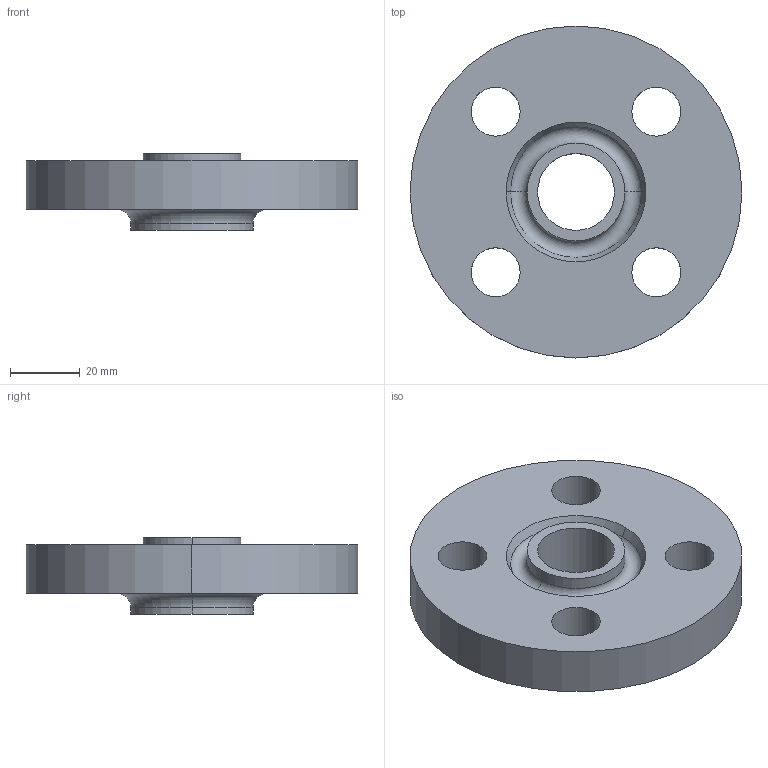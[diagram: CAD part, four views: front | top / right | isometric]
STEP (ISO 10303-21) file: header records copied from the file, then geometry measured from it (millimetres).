
FILE_DESCRIPTION (( 'STEP AP214' ), '1' );
FILE_NAME ('PN40 DN15 Type 12 - Type H Face.STEP', '2018-12-29T14:58:01', ( '' ), ( '' ), 'SwSTEP 2.0', 'SolidWorks 2019', '' );
FILE_SCHEMA (( 'AUTOMOTIVE_DESIGN' ));
Length unit declared in the file: millimetre
Products named in the file (1): PN40 DN15 Type 12 - Type H Face
Bounding box: 95 x 95 x 22 mm (x, y, z)
Volume: 87728.6 mm3; surface area: 21521.9 mm2
Topology: 1 solids, 1 shells, 26 faces, 60 edges, 38 vertices
Faces by surface type: cylinder 16, torus 4, plane 4, cone 2
Entity records: 812 total; most frequent: DIRECTION 156, CARTESIAN_POINT 125, ORIENTED_EDGE 120, AXIS2_PLACEMENT_3D 69, EDGE_CURVE 60, CIRCLE 42, EDGE_LOOP 38, VERTEX_POINT 38
